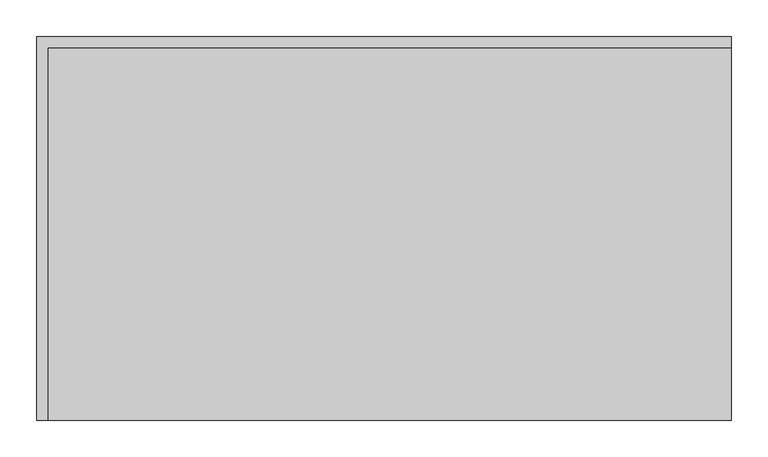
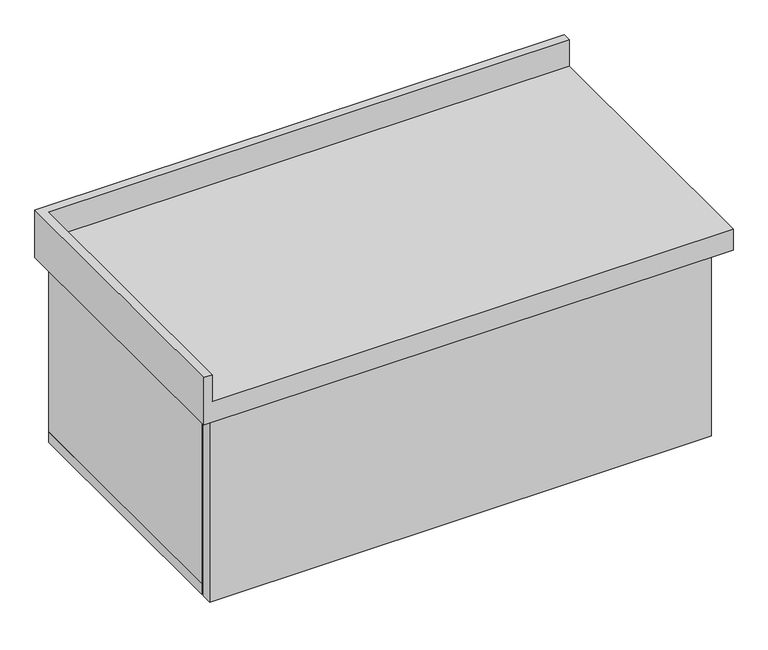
"""IFC4 building model written with IfcOpenShell, lengths in millimetres: furniture geometry, Mueble colgado 1 cajon - lavabo sobreponer : MB3 mueble baño colgado-1 cajon - 90cm 3."""

from ifc_helpers import new_model, si_unit, frame, origin, place, context, project, spatial, polyline, outline, extrude, faceted_brep, source, transform, mapped, element, save


def furniture_4f3d3dcf(model_context):
    return source(origin(), model_context, "Body", "SolidModel", [
        faceted_brep([(-350.0, -615.0, 800.0), (-350.0, -615.0, 710.0), (600.0, -615.0, 710.0), (600.0, -615.0, 750.0), (-335.0, -615.0, 750.0), (-335.0, -615.0, 800.0), (-335.0, -105.0, 800.0), (600.0, -105.0, 800.0), (600.0, -90.0, 800.0), (-350.0, -90.0, 800.0), (-350.0, -90.0, 710.0), (600.0, -90.0, 710.0), (600.0, -105.0, 750.0), (-335.0, -105.0, 750.0)], [[[0, 1, 2, 3, 4, 5]], [[5, 6, 7, 8, 9, 0]], [[0, 9, 10, 1]], [[8, 11, 10, 9]], [[7, 12, 3, 2, 11, 8]], [[3, 12, 13, 4]], [[2, 1, 10, 11]], [[4, 13, 6, 5]], [[6, 13, 12, 7]]]),
        extrude(outline(polyline([(575.0, -590.0), (-325.0, -590.0), (-325.0, -570.0), (575.0, -570.0), (575.0, -590.0)])), frame((0.0, 0.0, 350.0), z_axis=(0.0, 0.0, 1.0), x_axis=(1.0, 0.0, 0.0)), (0.0, 0.0, 1.0), 350.0),
        extrude(outline(polyline([(575.0, -90.0), (575.0, -565.0), (555.0, -565.0), (555.0, -90.0), (575.0, -90.0)])), frame((0.0, 0.0, 370.0), z_axis=(0.0, 0.0, 1.0), x_axis=(1.0, 0.0, 0.0)), (0.0, 0.0, 1.0), 340.0),
        extrude(outline(polyline([(-305.0, -90.0), (-305.0, -565.0), (-325.0, -565.0), (-325.0, -90.0), (-305.0, -90.0)])), frame((0.0, 0.0, 370.0), z_axis=(0.0, 0.0, 1.0), x_axis=(1.0, 0.0, 0.0)), (0.0, 0.0, 1.0), 340.0),
        extrude(outline(polyline([(575.0, -565.0), (-325.0, -565.0), (-325.0, -90.0), (575.0, -90.0), (575.0, -565.0)])), frame((0.0, 0.0, 350.0), z_axis=(0.0, 0.0, 1.0), x_axis=(1.0, 0.0, 0.0)), (0.0, 0.0, 1.0), 20.0),
    ])


if __name__ == "__main__":
    model = new_model("IFC4")
    model_context = context("Model", 3, world=origin())
    ifc_project = project(units=[si_unit("LENGTHUNIT", "METRE", prefix="MILLI")], contexts=[model_context])
    site = spatial("IfcSite", under=ifc_project)
    building = spatial("IfcBuilding", under=site)
    placement = place(None, origin())
    furniture_shape = furniture_4f3d3dcf(model_context)
    element("IfcFurniture", 1, ObjectType="Mueble colgado 1 cajon - lavabo sobreponer : MB3 mueble baño colgado-1 cajon - 90cm 3", at=placement, inside=building, context=model_context, shape_type="MappedRepresentation", body=[
        mapped(furniture_shape, transform((0.0, 0.0, 0.0), x_axis=(1.0, 0.0, 0.0), y_axis=(0.0, 1.0, 0.0), z_axis=(0.0, 0.0, 1.0))),
    ])
    save(model, "model.ifc")
